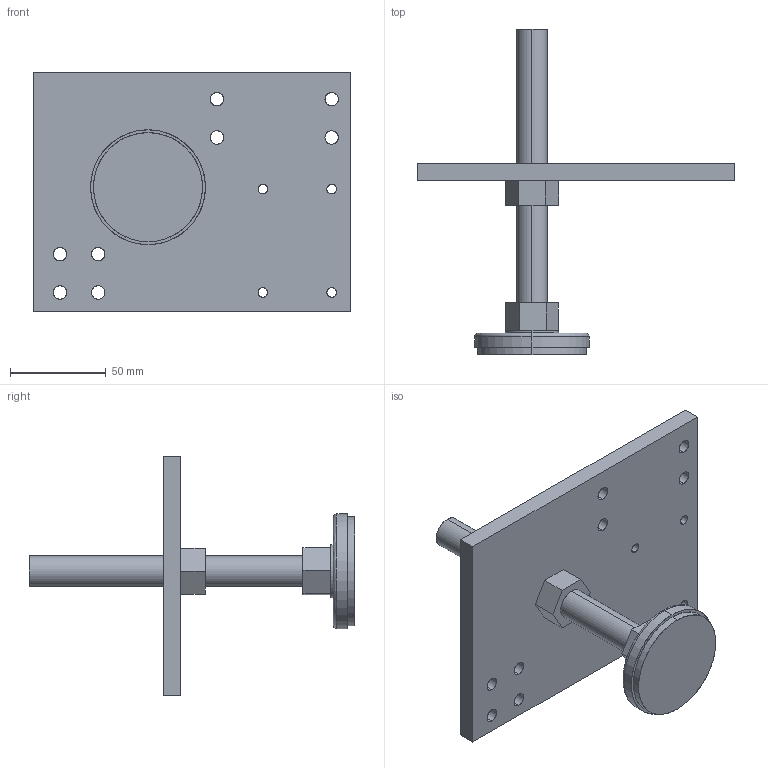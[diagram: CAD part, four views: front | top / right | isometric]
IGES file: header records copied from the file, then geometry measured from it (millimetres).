
Start section: SolidWorks IGES file using analytic representation for surfaces
Global section: file name: C:\Documents and Settings\Administrator\デスクトップ\7回目指定保存後\SolidWorks\SF\SF30\Parts\アジャスタ\SFK-517.IGS; native system: SolidWorks 2006 by SolidWorks Corporation; preprocessor: SolidWorks 2006 by SolidWorks Corporation; author: Administrator; date: 061222.162319; units: millimetre
Bounding box: 166 x 170 x 125 mm (x, y, z)
Surface area: 66611.1 mm2 (no closed solid volume)
Topology: 0 solids, 0 shells, 64 faces, 2232 edges, 2552 vertices
Faces by surface type: revolution 36, bspline 28
